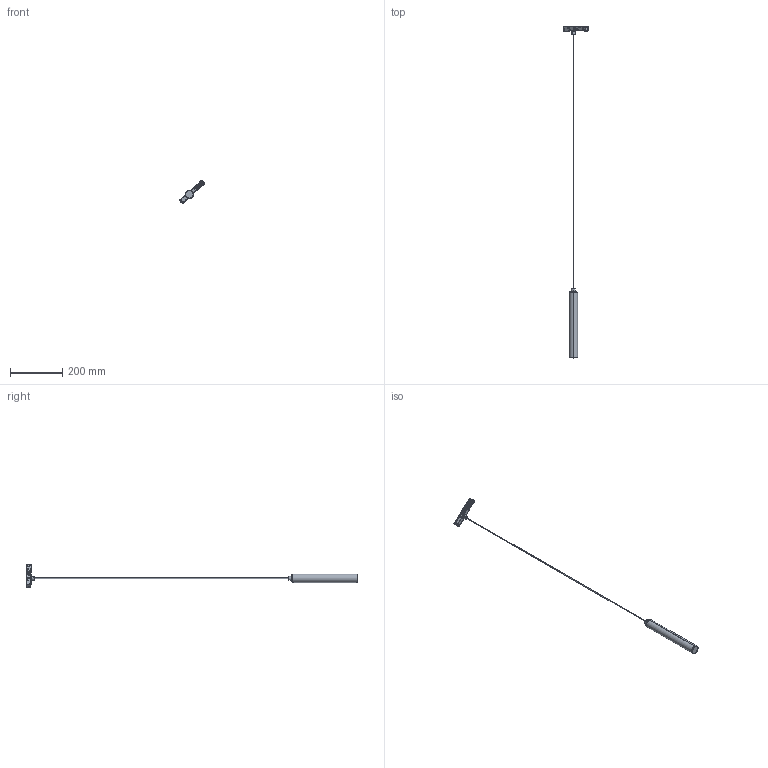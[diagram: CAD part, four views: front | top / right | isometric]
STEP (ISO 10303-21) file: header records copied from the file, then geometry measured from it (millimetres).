
FILE_DESCRIPTION (( 'STEP AP214' ), '1' );
FILE_NAME ('MIKU_track.STEP', '2026-04-30T06:39:25', ( '' ), ( '' ), 'SwSTEP 2.0', 'SolidWorks 2023', '' );
FILE_SCHEMA (( 'AUTOMOTIVE_DESIGN' ));
Length unit declared in the file: millimetre
Products named in the file (3): MIKU_CUERPO; MIKU_track; TRACK_perfil
Assembly tree (2 placements, depth 2):
  MIKU_track
    MIKU_CUERPO
    TRACK_perfil
Bounding box: 95.22 x 1272.58 x 88.56 mm (x, y, z)
Volume: 57786.7 mm3; surface area: 89388.1 mm2
Topology: 3 solids, 31 shells, 1575 faces, 4377 edges, 2855 vertices
Faces by surface type: plane 1221, cylinder 231, bspline 77, cone 40, torus 6
Entity records: 55180 total; most frequent: CARTESIAN_POINT 17330, ORIENTED_EDGE 8714, DIRECTION 6315, EDGE_CURVE 4360, VERTEX_POINT 2855, LINE 2583, VECTOR 2583, AXIS2_PLACEMENT_3D 1866
